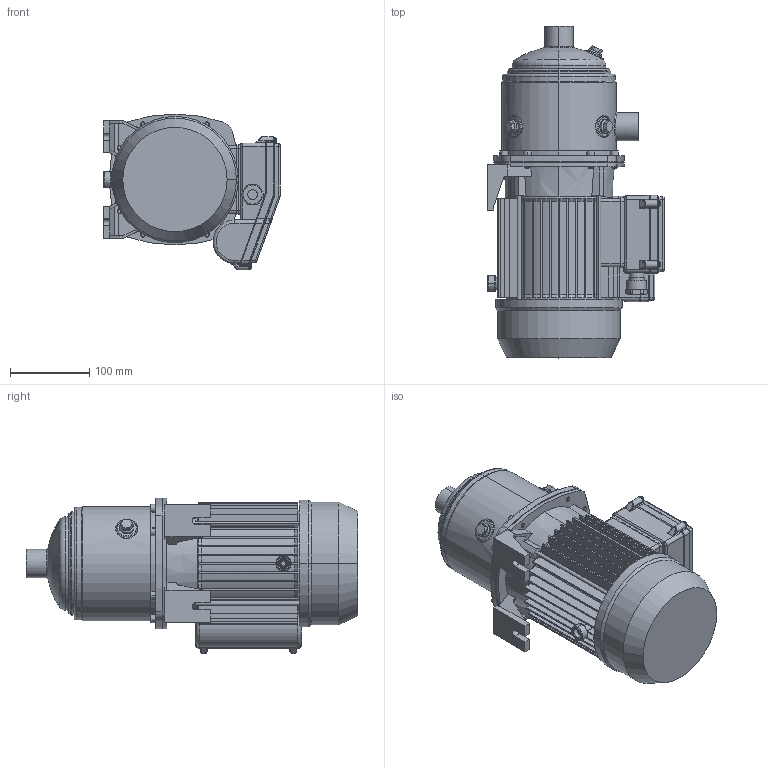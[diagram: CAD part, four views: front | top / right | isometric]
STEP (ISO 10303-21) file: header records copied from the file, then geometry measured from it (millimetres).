
FILE_DESCRIPTION((''),'2;1');
FILE_NAME('MATRIX_3-4T6_1_3_M_ASM','2017-10-10T',('shehi'),('"Ebara Pumps Europe +39.444.706811"'),'PRO/ENGINEER BY PARAMETRIC TECHNOLOGY CORPORATION, 2014200','PRO/ENGINEER BY PARAMETRIC TECHNOLOGY CORPORATION, 2014200','');
FILE_SCHEMA(('AUTOMOTIVE_DESIGN { 1 0 10303 214 1 1 1 1 }'));
Length unit declared in the file: millimetre
Products named in the file (6): CORPO_POMPA_MATRIX_3-4; SUPPORTO_MATRIX_MEC_80; MEC_80_MONOFASE; COPRIMORSETTIERA_MEC80_90_M; 72229; MATRIX_3-4T6_1_3_M_ASM
Assembly tree (5 placements, depth 2):
  MATRIX_3-4T6_1_3_M_ASM
    CORPO_POMPA_MATRIX_3-4
    SUPPORTO_MATRIX_MEC_80
    MEC_80_MONOFASE
    COPRIMORSETTIERA_MEC80_90_M
    72229
Bounding box: 223 x 418.8 x 196.5 mm (x, y, z)
Volume: 5585026.5 mm3; surface area: 578859.3 mm2
Topology: 5 solids, 5 shells, 960 faces, 2294 edges, 1391 vertices
Faces by surface type: plane 427, cylinder 303, cone 108, torus 62, bspline 56, sphere 4
Entity records: 38887 total; most frequent: CARTESIAN_POINT 9091, DIRECTION 4712, ORIENTED_EDGE 4588, EDGE_CURVE 2294, PRESENTATION_STYLE_ASSIGNMENT 2248, STYLED_ITEM 2248, CURVE_STYLE 2244, AXIS2_PLACEMENT_3D 1815
